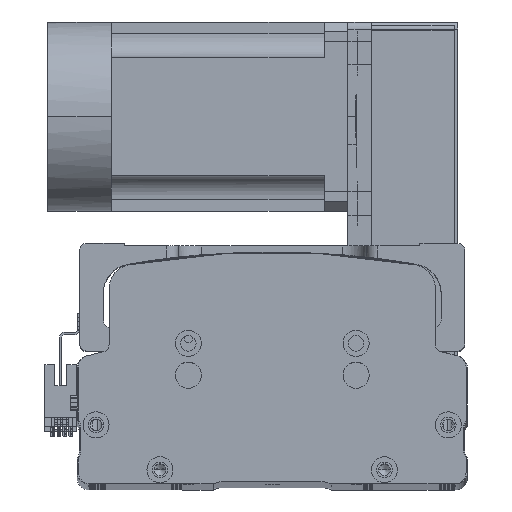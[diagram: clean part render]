
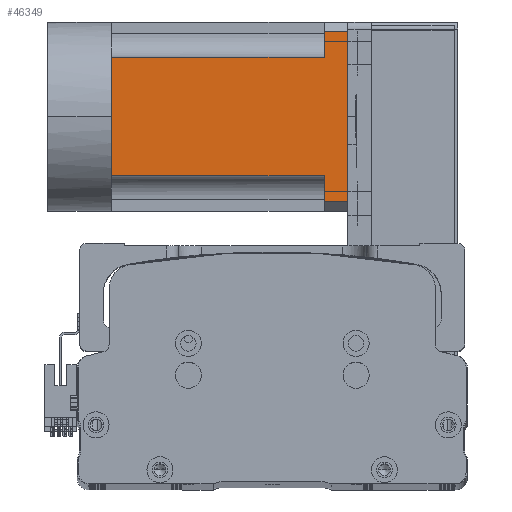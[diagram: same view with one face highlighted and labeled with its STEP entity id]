
A CAD part, top view. The second image highlights one B-rep face of the part: STEP entity #46349.
In plain terms, the highlighted planar face has unit normal (0, 0, 1) as drawn and (0, 0, -1) by its records, which use the part's own axes.
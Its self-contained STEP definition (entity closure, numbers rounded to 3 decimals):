
#79 = EDGE_CURVE ( 'NONE', #21644, #31432, #48718, .T. ) ;
#1703 = LINE ( 'NONE', #22622, #54968 ) ;
#2455 = VERTEX_POINT ( 'NONE', #43162 ) ;
#3332 = AXIS2_PLACEMENT_3D ( 'NONE', #58555, #63658, #32783 ) ;
#4644 = CARTESIAN_POINT ( 'NONE',  ( 36., 100., -40. ) ) ;
#5252 = EDGE_CURVE ( 'NONE', #50317, #32302, #50494, .T. ) ;
#5328 = LINE ( 'NONE', #54440, #17382 ) ;
#6874 = VECTOR ( 'NONE', #41382, 1000. ) ;
#8744 = VERTEX_POINT ( 'NONE', #50695 ) ;
#9200 = VECTOR ( 'NONE', #66764, 1000. ) ;
#9779 = CARTESIAN_POINT ( 'NONE',  ( 25., -27., -40. ) ) ;
#10107 = ORIENTED_EDGE ( 'NONE', *, *, #79, .T. ) ;
#10495 = CARTESIAN_POINT ( 'NONE',  ( -40., 100., -40. ) ) ;
#12282 = EDGE_CURVE ( 'NONE', #32149, #39645, #30076, .T. ) ;
#14006 = ORIENTED_EDGE ( 'NONE', *, *, #5252, .T. ) ;
#14559 = VECTOR ( 'NONE', #63352, 1000. ) ;
#16404 = VECTOR ( 'NONE', #22001, 1000. ) ;
#16545 = VECTOR ( 'NONE', #66084, 1000. ) ;
#17382 = VECTOR ( 'NONE', #23486, 1000. ) ;
#19068 = FACE_OUTER_BOUND ( 'NONE', #43294, .T. ) ;
#19646 = CARTESIAN_POINT ( 'NONE',  ( -25., 0., -40. ) ) ;
#21341 = CARTESIAN_POINT ( 'NONE',  ( 25., 0., -40. ) ) ;
#21644 = VERTEX_POINT ( 'NONE', #4644 ) ;
#22001 = DIRECTION ( 'NONE',  ( -1., 0., 0. ) ) ;
#22622 = CARTESIAN_POINT ( 'NONE',  ( -40., 0., -40. ) ) ;
#23486 = DIRECTION ( 'NONE',  ( 0., 1., 0. ) ) ;
#27101 = ORIENTED_EDGE ( 'NONE', *, *, #50136, .T. ) ;
#27266 = CARTESIAN_POINT ( 'NONE',  ( -40., 90., -40. ) ) ;
#27402 = CARTESIAN_POINT ( 'NONE',  ( -25., 90., -40. ) ) ;
#28446 = CARTESIAN_POINT ( 'NONE',  ( -36., 90., -40. ) ) ;
#28931 = ORIENTED_EDGE ( 'NONE', *, *, #33441, .T. ) ;
#30034 = ORIENTED_EDGE ( 'NONE', *, *, #43989, .T. ) ;
#30076 = LINE ( 'NONE', #32141, #16404 ) ;
#31432 = VERTEX_POINT ( 'NONE', #61151 ) ;
#31736 = EDGE_CURVE ( 'NONE', #31432, #2455, #64534, .T. ) ;
#31851 = ORIENTED_EDGE ( 'NONE', *, *, #37889, .F. ) ;
#32141 = CARTESIAN_POINT ( 'NONE',  ( -40., 0., -40. ) ) ;
#32149 = VERTEX_POINT ( 'NONE', #21341 ) ;
#32302 = VERTEX_POINT ( 'NONE', #27402 ) ;
#32783 = DIRECTION ( 'NONE',  ( -1., 0., 0. ) ) ;
#33441 = EDGE_CURVE ( 'NONE', #32302, #50098, #57043, .T. ) ;
#35877 = CARTESIAN_POINT ( 'NONE',  ( 36., -27., -40. ) ) ;
#37889 = EDGE_CURVE ( 'NONE', #21644, #8744, #48001, .T. ) ;
#37937 = CARTESIAN_POINT ( 'NONE',  ( 0., 0., -40. ) ) ;
#38329 = ORIENTED_EDGE ( 'NONE', *, *, #12282, .T. ) ;
#39645 = VERTEX_POINT ( 'NONE', #37937 ) ;
#40191 = CARTESIAN_POINT ( 'NONE',  ( -40., 90., -40. ) ) ;
#40447 = DIRECTION ( 'NONE',  ( 0., 1., 0. ) ) ;
#41382 = DIRECTION ( 'NONE',  ( -1., 0., 0. ) ) ;
#43162 = CARTESIAN_POINT ( 'NONE',  ( 25., 90., -40. ) ) ;
#43294 = EDGE_LOOP ( 'NONE', ( #31851, #10107, #64726, #66406, #38329, #30034, #14006, #28931, #27101 ) ) ;
#43989 = EDGE_CURVE ( 'NONE', #39645, #50317, #1703, .T. ) ;
#46349 = ADVANCED_FACE ( 'NONE', ( #19068 ), #47920, .T. ) ;
#47920 = PLANE ( 'NONE',  #3332 ) ;
#48001 = LINE ( 'NONE', #10495, #6874 ) ;
#48614 = DIRECTION ( 'NONE',  ( -1., 0., 0. ) ) ;
#48718 = LINE ( 'NONE', #35877, #9200 ) ;
#50098 = VERTEX_POINT ( 'NONE', #28446 ) ;
#50136 = EDGE_CURVE ( 'NONE', #50098, #8744, #5328, .T. ) ;
#50317 = VERTEX_POINT ( 'NONE', #19646 ) ;
#50494 = LINE ( 'NONE', #66092, #64161 ) ;
#50695 = CARTESIAN_POINT ( 'NONE',  ( -36., 100., -40. ) ) ;
#54440 = CARTESIAN_POINT ( 'NONE',  ( -36., -27., -40. ) ) ;
#54968 = VECTOR ( 'NONE', #48614, 1000. ) ;
#55414 = VECTOR ( 'NONE', #55728, 1000. ) ;
#55728 = DIRECTION ( 'NONE',  ( -1., 0., 0. ) ) ;
#57043 = LINE ( 'NONE', #40191, #55414 ) ;
#57717 = LINE ( 'NONE', #9779, #16545 ) ;
#58555 = CARTESIAN_POINT ( 'NONE',  ( -40., -27., -40. ) ) ;
#61151 = CARTESIAN_POINT ( 'NONE',  ( 36., 90., -40. ) ) ;
#63352 = DIRECTION ( 'NONE',  ( -1., 0., 0. ) ) ;
#63658 = DIRECTION ( 'NONE',  ( 0., 0., -1. ) ) ;
#64161 = VECTOR ( 'NONE', #40447, 1000. ) ;
#64534 = LINE ( 'NONE', #27266, #14559 ) ;
#64726 = ORIENTED_EDGE ( 'NONE', *, *, #31736, .T. ) ;
#66084 = DIRECTION ( 'NONE',  ( 0., -1., 0. ) ) ;
#66092 = CARTESIAN_POINT ( 'NONE',  ( -25., -27., -40. ) ) ;
#66406 = ORIENTED_EDGE ( 'NONE', *, *, #66924, .T. ) ;
#66764 = DIRECTION ( 'NONE',  ( 0., -1., 0. ) ) ;
#66924 = EDGE_CURVE ( 'NONE', #2455, #32149, #57717, .T. ) ;
